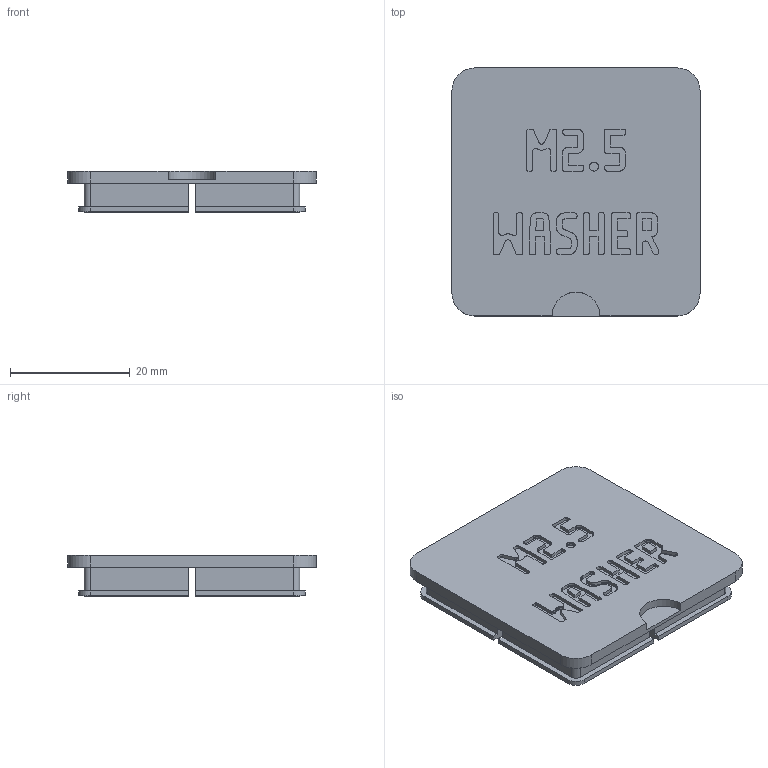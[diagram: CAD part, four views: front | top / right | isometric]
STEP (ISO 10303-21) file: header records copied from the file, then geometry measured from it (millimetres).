
FILE_DESCRIPTION(('Open CASCADE Model'),'2;1');
FILE_NAME('Open CASCADE Shape Model','2026-11-03T17:10:33',('Author'),( 'Open CASCADE'),'Open CASCADE STEP processor 8.0','build123d', 'Unknown');
FILE_SCHEMA(('AUTOMOTIVE_DESIGN { 1 0 10303 214 1 1 1 1 }'));
Products named in the file (1): COMPOUND
Bounding box: 41.5 x 41.5 x 6.9 mm (x, y, z)
Volume: 4183 mm3; surface area: 5546.2 mm2
Topology: 1 solids, 1 shells, 1100 faces, 3255 edges, 2170 vertices
Faces by surface type: plane 1079, cylinder 21
Entity records: 78258 total; most frequent: CARTESIAN_POINT 13392, DIRECTION 11813, LINE 9517, VECTOR 9517, ORIENTED_EDGE 6510, PCURVE 6510, DEFINITIONAL_REPRESENTATION 6510, EDGE_CURVE 3255
